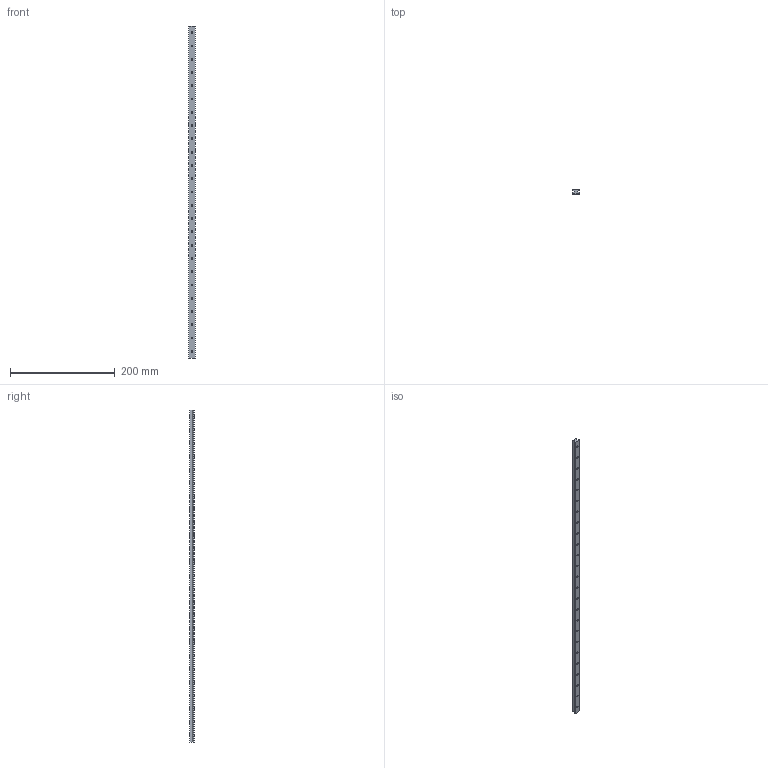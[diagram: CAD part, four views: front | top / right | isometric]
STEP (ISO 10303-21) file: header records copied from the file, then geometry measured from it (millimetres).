
FILE_DESCRIPTION (( 'STEP AP203' ), '1' );
FILE_NAME ('9728K64.step', '2017-12-14T18:58:58', ( '' ), ( '' ), 'SwSTEP 2.0', 'SolidWorks 2014', '' );
FILE_SCHEMA (( 'CONFIG_CONTROL_DESIGN' ));
Length unit declared in the file: inch
Products named in the file (1): 9728K64
Bounding box: 12.7 x 7.87 x 635 mm (x, y, z)
Volume: 46499.6 mm3; surface area: 31560.4 mm2
Topology: 1 solids, 1 shells, 135 faces, 324 edges, 216 vertices
Faces by surface type: cylinder 100, plane 35
Entity records: 4217 total; most frequent: DIRECTION 796, CARTESIAN_POINT 676, ORIENTED_EDGE 648, AXIS2_PLACEMENT_3D 336, EDGE_CURVE 324, VERTEX_POINT 216, EDGE_LOOP 210, CIRCLE 200
